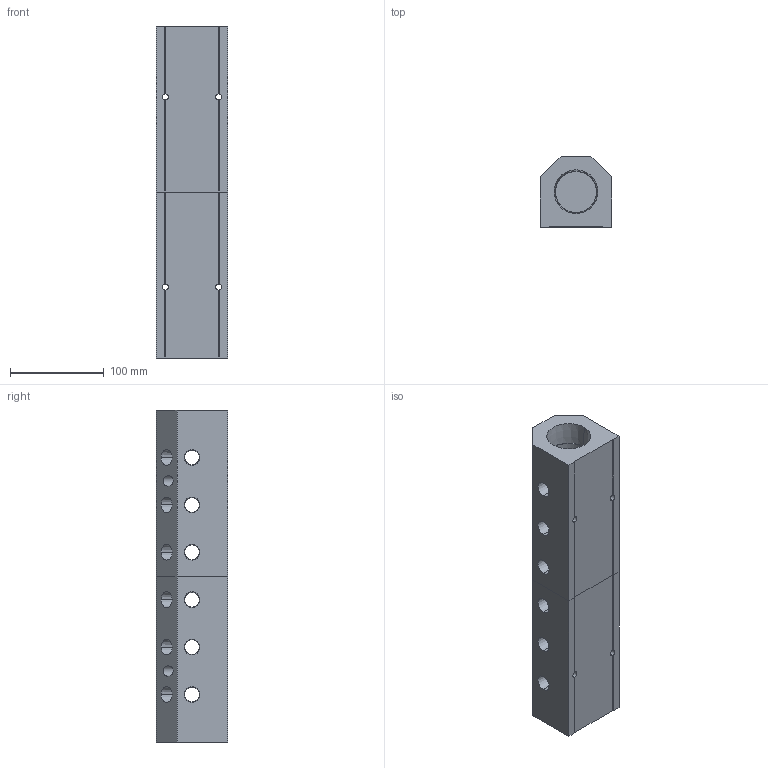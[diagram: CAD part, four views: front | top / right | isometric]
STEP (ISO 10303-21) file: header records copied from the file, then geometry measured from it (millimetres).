
FILE_DESCRIPTION (( 'STEP AP214' ), '1' );
FILE_NAME ('ALM6ABCDE-N6N24-355RB.step', '2022-02-07T09:16:03', ( '' ), ( '' ), 'SwSTEP 2.0', 'SolidWorks 2020', '' );
FILE_SCHEMA (( 'AUTOMOTIVE_DESIGN' ));
Length unit declared in the file: millimetre
Products named in the file (1): ALM6ABCDE-N6N24-355RB
Bounding box: 76.2 x 76.2 x 355 mm (x, y, z)
Volume: 1220175.5 mm3; surface area: 187847.5 mm2
Topology: 2 solids, 2 shells, 418 faces, 1129 edges, 742 vertices
Faces by surface type: plane 250, bspline 84, cone 64, cylinder 20
Entity records: 24963 total; most frequent: CARTESIAN_POINT 10940, ORIENTED_EDGE 2258, DIRECTION 1655, EDGE_CURVE 1129, LINE 785, VECTOR 785, VERTEX_POINT 742, EDGE_LOOP 513
